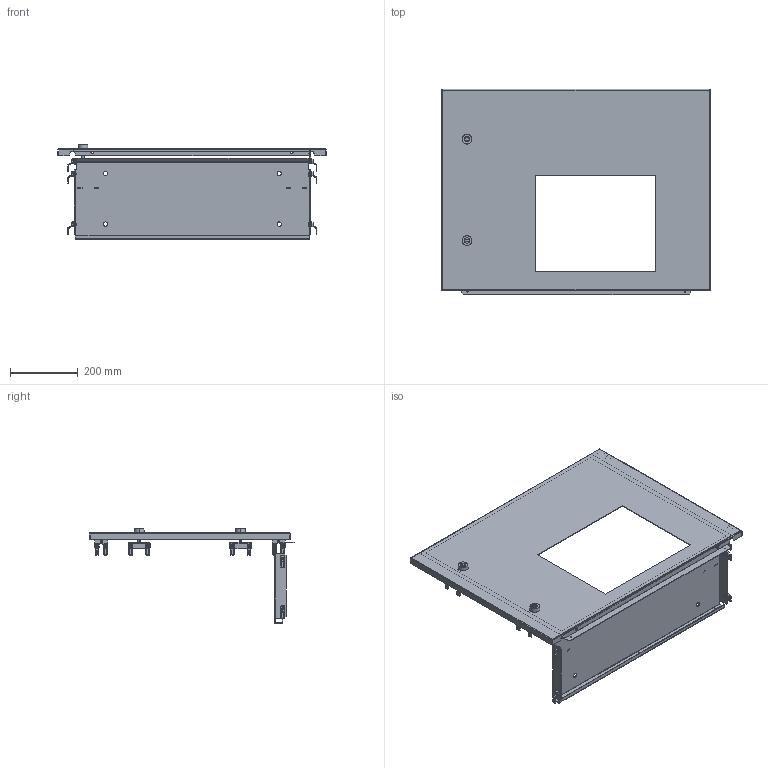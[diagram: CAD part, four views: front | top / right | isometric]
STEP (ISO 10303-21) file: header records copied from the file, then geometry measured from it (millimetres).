
FILE_DESCRIPTION(('CAx-IF Rec.Pracs.---Model Styling and Organization---1.2---2011-12-15','CAx-IF Rec.Pracs.---Geometric and Assembly Validation Properties---4.1---2014-06-16','CAx-IF Rec.Pracs.---PMI Polyline Presentation---2.0---2013-05-24'),'2;1');
FILE_NAME('R5PKEB6V811254P.stp','2021-05-14T11:08:15+03:00',(''),(''),'STEP Interface 4.4 by CT CoreTechnologie','3D_Evolution4.4 by CT CoreTechnologie','');
FILE_SCHEMA(('AUTOMOTIVE_DESIGN { 1 0 10303 214 1 1 1 1 }'));
Length unit declared in the file: millimetre
Products named in the file (16): R5PKEB6V811254P; RB.2002.00.00.0 ÑÁ_-01 (S4 F 4P); RB.2002.00.01.0_-01 (S4 F 4P); Ì6õ12-A5100231_straight; AC00C266; PF 7x14 R5PKEB_0600x0800; M6 x 16-DIN 7991 ISR_thread; AC00C485; AC00C745; MS737-1-1; MS737-1-1 stop_fixed; MS737-1-1 Z_ ªàëâ; M6x16-DIN 7985 ISR_thread; RB.0116.00.00.1_-00; RB.0687.00.00.0_-00; RB.2001.00.00.0_-01
Assembly tree (41 placements, depth 3):
  R5PKEB6V811254P
    RB.2002.00.00.0 ÑÁ_-01 (S4 F 4P)
      RB.2002.00.01.0_-01 (S4 F 4P)
      Ì6õ12-A5100231_straight
      AC00C266  x2
      PF 7x14 R5PKEB_0600x0800
    M6 x 16-DIN 7991 ISR_thread  x8
    AC00C485  x12
    AC00C745  x2
    MS737-1-1  x2
      MS737-1-1 stop_fixed
      MS737-1-1 Z_ ªàëâ
    M6x16-DIN 7985 ISR_thread  x4
    RB.0116.00.00.1_-00  x2
    RB.0687.00.00.0_-00  x2
    RB.2001.00.00.0_-01
Bounding box: 794 x 607.5 x 278.9 mm (x, y, z)
Surface area: 1479780.8 mm2 (no closed solid volume)
Topology: 0 solids, 64 shells, 2013 faces, 4998 edges, 3080 vertices
Faces by surface type: plane 865, cylinder 794, bspline 354
Entity records: 24138 total; most frequent: CARTESIAN_POINT 7179, ORIENTED_EDGE 3310, DIRECTION 3295, EDGE_CURVE 1655, AXIS2_PLACEMENT_3D 1133, VERTEX_POINT 1047, VECTOR 1029, LINE 1029
